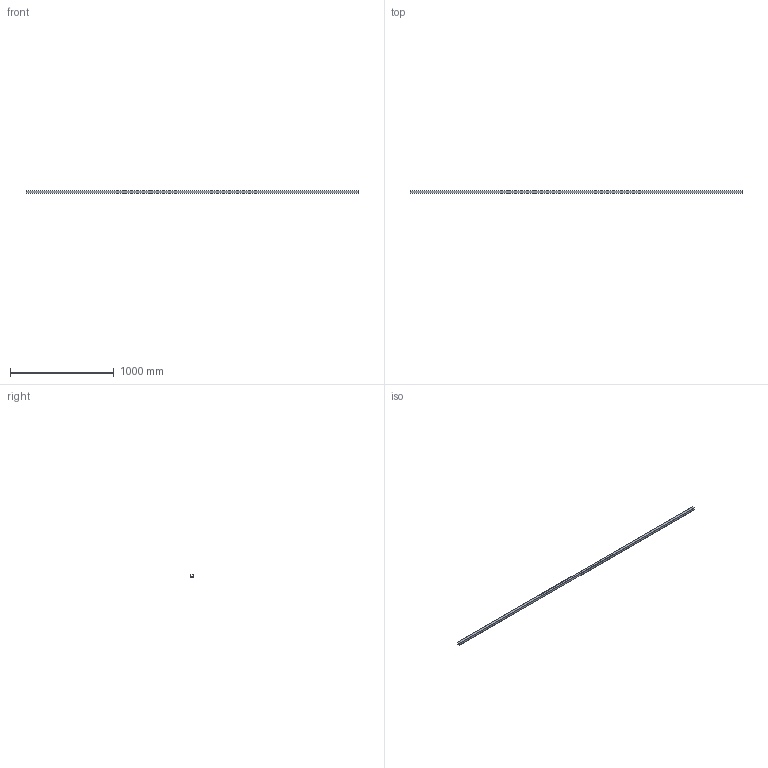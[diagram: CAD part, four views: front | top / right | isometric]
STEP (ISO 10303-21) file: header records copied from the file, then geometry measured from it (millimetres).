
FILE_DESCRIPTION( ( 'STEP AP214' ), '1' );
FILE_NAME( 'C:/Users/kosh/Desktop/9193574.stp', '2019-07-04T08:27:36', ( '' ), ( '' ), ' ', 'PARTsolutions', ' ' );
FILE_SCHEMA( ( 'AUTOMOTIVE_DESIGN { 1 0 10303 214 1 1 1 1 }' ) );
Length unit declared in the file: millimetre
Products named in the file (1): _9193574
Bounding box: 3200 x 27 x 24.7 mm (x, y, z)
Volume: 424448 mm3; surface area: 550536.6 mm2
Topology: 1 solids, 1 shells, 18 faces, 48 edges, 32 vertices
Faces by surface type: plane 18
Entity records: 712 total; most frequent: CARTESIAN_POINT 99, ORIENTED_EDGE 96, DIRECTION 86, EDGE_CURVE 48, LINE 48, VECTOR 48, VERTEX_POINT 32, AXIS2_PLACEMENT_3D 19
